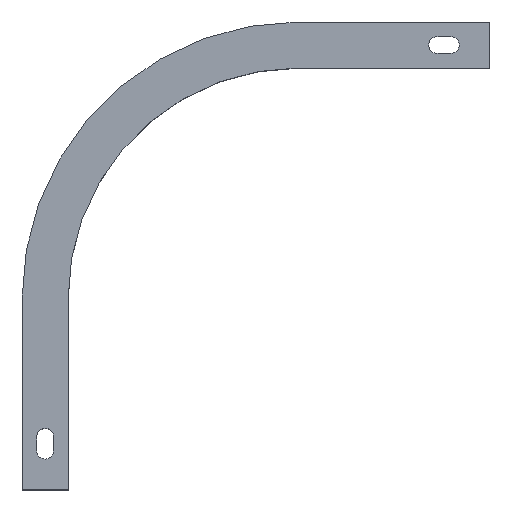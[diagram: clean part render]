
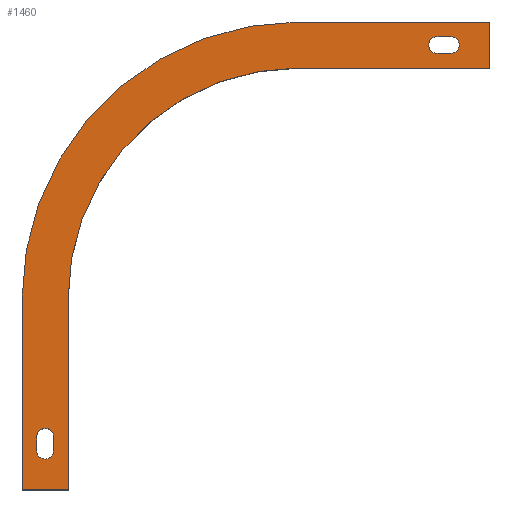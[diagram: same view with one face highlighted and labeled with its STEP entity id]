
A CAD part, top view. The second image highlights one B-rep face of the part: STEP entity #1460.
In plain terms, the highlighted planar face has unit normal (0, 0, 1).
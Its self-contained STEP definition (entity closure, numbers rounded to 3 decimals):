
#10=CARTESIAN_POINT('',(0.,0.,0.));
#20=DIRECTION('',(0.,0.,1.));
#30=DIRECTION('',(1.,0.,0.));
#40=AXIS2_PLACEMENT_3D('',#10,#20,#30);
#50=PLANE('',#40);
#60=CARTESIAN_POINT('',(0.,0.,0.));
#70=DIRECTION('',(0.,0.,1.));
#80=DIRECTION('',(1.,0.,0.));
#90=AXIS2_PLACEMENT_3D('',#60,#70,#80);
#100=CIRCLE('',#90,180.);
#110=CARTESIAN_POINT('',(0.,180.,0.));
#120=VERTEX_POINT('',#110);
#130=CARTESIAN_POINT('',(-180.,0.,0.));
#140=VERTEX_POINT('',#130);
#150=EDGE_CURVE('',#120,#140,#100,.T.);
#160=ORIENTED_EDGE('',*,*,#150,.T.);
#170=CARTESIAN_POINT('',(0.,180.,0.));
#180=DIRECTION('',(1.,0.,0.));
#190=VECTOR('',#180,1.);
#200=LINE('',#170,#190);
#210=CARTESIAN_POINT('',(125.,180.,0.));
#220=VERTEX_POINT('',#210);
#230=EDGE_CURVE('',#120,#220,#200,.T.);
#240=ORIENTED_EDGE('',*,*,#230,.F.);
#250=CARTESIAN_POINT('',(125.,0.,0.));
#260=DIRECTION('',(0.,1.,0.));
#270=VECTOR('',#260,1.);
#280=LINE('',#250,#270);
#290=CARTESIAN_POINT('',(125.,150.,0.));
#300=VERTEX_POINT('',#290);
#310=EDGE_CURVE('',#300,#220,#280,.T.);
#320=ORIENTED_EDGE('',*,*,#310,.T.);
#330=CARTESIAN_POINT('',(0.,150.,0.));
#340=DIRECTION('',(1.,0.,0.));
#350=VECTOR('',#340,1.);
#360=LINE('',#330,#350);
#370=CARTESIAN_POINT('',(0.,150.,0.));
#380=VERTEX_POINT('',#370);
#390=EDGE_CURVE('',#380,#300,#360,.T.);
#400=ORIENTED_EDGE('',*,*,#390,.T.);
#410=CARTESIAN_POINT('',(0.,0.,0.));
#420=DIRECTION('',(0.,0.,1.));
#430=DIRECTION('',(1.,0.,0.));
#440=AXIS2_PLACEMENT_3D('',#410,#420,#430);
#450=CIRCLE('',#440,150.);
#460=CARTESIAN_POINT('',(-150.,0.,0.));
#470=VERTEX_POINT('',#460);
#480=EDGE_CURVE('',#380,#470,#450,.T.);
#490=ORIENTED_EDGE('',*,*,#480,.F.);
#500=CARTESIAN_POINT('',(-150.,0.,0.));
#510=DIRECTION('',(0.,1.,0.));
#520=VECTOR('',#510,1.);
#530=LINE('',#500,#520);
#540=CARTESIAN_POINT('',(-150.,-125.,0.));
#550=VERTEX_POINT('',#540);
#560=EDGE_CURVE('',#550,#470,#530,.T.);
#570=ORIENTED_EDGE('',*,*,#560,.T.);
#580=CARTESIAN_POINT('',(0.,-125.,0.));
#590=DIRECTION('',(1.,0.,0.));
#600=VECTOR('',#590,1.);
#610=LINE('',#580,#600);
#620=CARTESIAN_POINT('',(-180.,-125.,0.));
#630=VERTEX_POINT('',#620);
#640=EDGE_CURVE('',#630,#550,#610,.T.);
#650=ORIENTED_EDGE('',*,*,#640,.T.);
#660=CARTESIAN_POINT('',(-180.,0.,0.));
#670=DIRECTION('',(0.,1.,0.));
#680=VECTOR('',#670,1.);
#690=LINE('',#660,#680);
#700=EDGE_CURVE('',#630,#140,#690,.T.);
#710=ORIENTED_EDGE('',*,*,#700,.F.);
#720=EDGE_LOOP('',(#710,#650,#570,#490,#400,#320,#240,#160));
#730=FACE_OUTER_BOUND('',#720,.T.);
#740=CARTESIAN_POINT('',(-165.,-99.5,0.));
#750=DIRECTION('',(0.,0.,1.));
#760=DIRECTION('',(1.,0.,0.));
#770=AXIS2_PLACEMENT_3D('',#740,#750,#760);
#780=CIRCLE('',#770,5.5);
#790=CARTESIAN_POINT('',(-170.5,-99.5,0.));
#800=VERTEX_POINT('',#790);
#810=CARTESIAN_POINT('',(-159.5,-99.5,0.));
#820=VERTEX_POINT('',#810);
#830=EDGE_CURVE('',#800,#820,#780,.T.);
#840=ORIENTED_EDGE('',*,*,#830,.F.);
#850=CARTESIAN_POINT('',(-159.5,0.,0.));
#860=DIRECTION('',(0.,1.,0.));
#870=VECTOR('',#860,1.);
#880=LINE('',#850,#870);
#890=CARTESIAN_POINT('',(-159.5,-90.5,0.));
#900=VERTEX_POINT('',#890);
#910=EDGE_CURVE('',#820,#900,#880,.T.);
#920=ORIENTED_EDGE('',*,*,#910,.F.);
#930=CARTESIAN_POINT('',(-165.,-90.5,0.));
#940=DIRECTION('',(0.,0.,-1.));
#950=DIRECTION('',(1.,0.,0.));
#960=AXIS2_PLACEMENT_3D('',#930,#940,#950);
#970=CIRCLE('',#960,5.5);
#980=CARTESIAN_POINT('',(-170.5,-90.5,0.));
#990=VERTEX_POINT('',#980);
#1000=EDGE_CURVE('',#990,#900,#970,.T.);
#1010=ORIENTED_EDGE('',*,*,#1000,.T.);
#1020=CARTESIAN_POINT('',(-170.5,0.,0.));
#1030=DIRECTION('',(0.,-1.,0.));
#1040=VECTOR('',#1030,1.);
#1050=LINE('',#1020,#1040);
#1060=EDGE_CURVE('',#990,#800,#1050,.T.);
#1070=ORIENTED_EDGE('',*,*,#1060,.F.);
#1080=EDGE_LOOP('',(#1070,#1010,#920,#840));
#1090=FACE_BOUND('',#1080,.T.);
#1100=CARTESIAN_POINT('',(0.,159.5,0.));
#1110=DIRECTION('',(1.,0.,0.));
#1120=VECTOR('',#1110,1.);
#1130=LINE('',#1100,#1120);
#1140=CARTESIAN_POINT('',(90.5,159.5,0.));
#1150=VERTEX_POINT('',#1140);
#1160=CARTESIAN_POINT('',(99.5,159.5,0.));
#1170=VERTEX_POINT('',#1160);
#1180=EDGE_CURVE('',#1150,#1170,#1130,.T.);
#1190=ORIENTED_EDGE('',*,*,#1180,.F.);
#1200=CARTESIAN_POINT('',(99.5,165.,0.));
#1210=DIRECTION('',(0.,0.,-1.));
#1220=DIRECTION('',(1.,0.,0.));
#1230=AXIS2_PLACEMENT_3D('',#1200,#1210,#1220);
#1240=CIRCLE('',#1230,5.5);
#1250=CARTESIAN_POINT('',(99.5,170.5,0.));
#1260=VERTEX_POINT('',#1250);
#1270=EDGE_CURVE('',#1260,#1170,#1240,.T.);
#1280=ORIENTED_EDGE('',*,*,#1270,.T.);
#1290=CARTESIAN_POINT('',(0.,170.5,0.));
#1300=DIRECTION('',(-1.,0.,0.));
#1310=VECTOR('',#1300,1.);
#1320=LINE('',#1290,#1310);
#1330=CARTESIAN_POINT('',(90.5,170.5,0.));
#1340=VERTEX_POINT('',#1330);
#1350=EDGE_CURVE('',#1260,#1340,#1320,.T.);
#1360=ORIENTED_EDGE('',*,*,#1350,.F.);
#1370=CARTESIAN_POINT('',(90.5,165.,0.));
#1380=DIRECTION('',(0.,0.,1.));
#1390=DIRECTION('',(1.,0.,0.));
#1400=AXIS2_PLACEMENT_3D('',#1370,#1380,#1390);
#1410=CIRCLE('',#1400,5.5);
#1420=EDGE_CURVE('',#1340,#1150,#1410,.T.);
#1430=ORIENTED_EDGE('',*,*,#1420,.F.);
#1440=EDGE_LOOP('',(#1430,#1360,#1280,#1190));
#1450=FACE_BOUND('',#1440,.T.);
#1460=ADVANCED_FACE('',(#730,#1090,#1450),#50,.T.);
